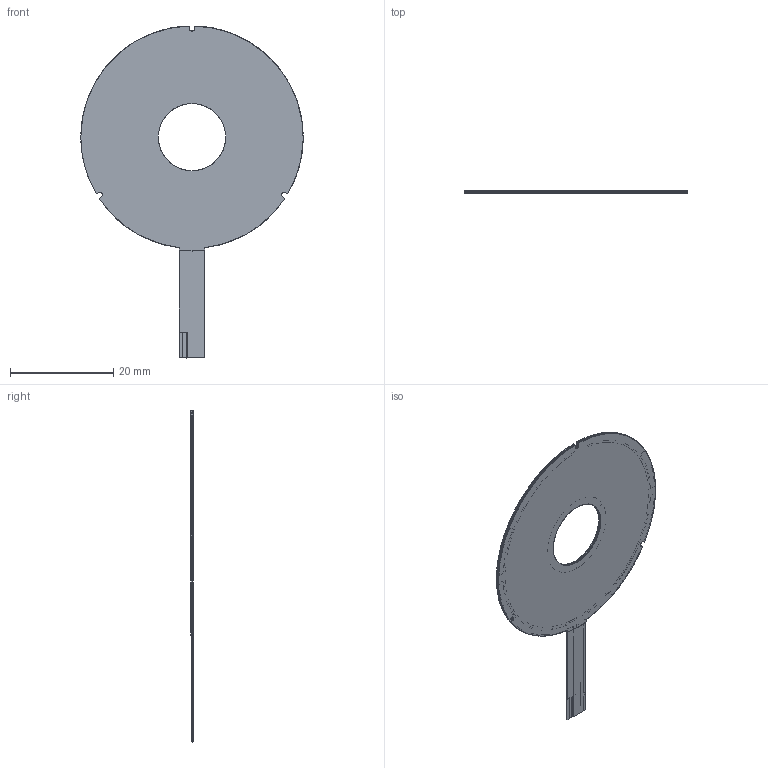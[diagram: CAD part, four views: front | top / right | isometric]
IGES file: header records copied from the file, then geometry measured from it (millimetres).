
Start section: SolidWorks IGES file using analytic representation for surfaces
Global section: file name: C:\Users\jleonard\Desktop\40-24131 Ring Sensor.IGS; native system: SolidWorks 2008; preprocessor: SolidWorks 2008; author: jleonard; date: 121019.152930; units: millimetre
Bounding box: 43 x 0.55 x 64.18 mm (x, y, z)
Surface area: 15643.4 mm2 (no closed solid volume)
Topology: 0 solids, 0 shells, 5679 faces, 35924 edges, 35924 vertices
Faces by surface type: bspline 5418, revolution 261
